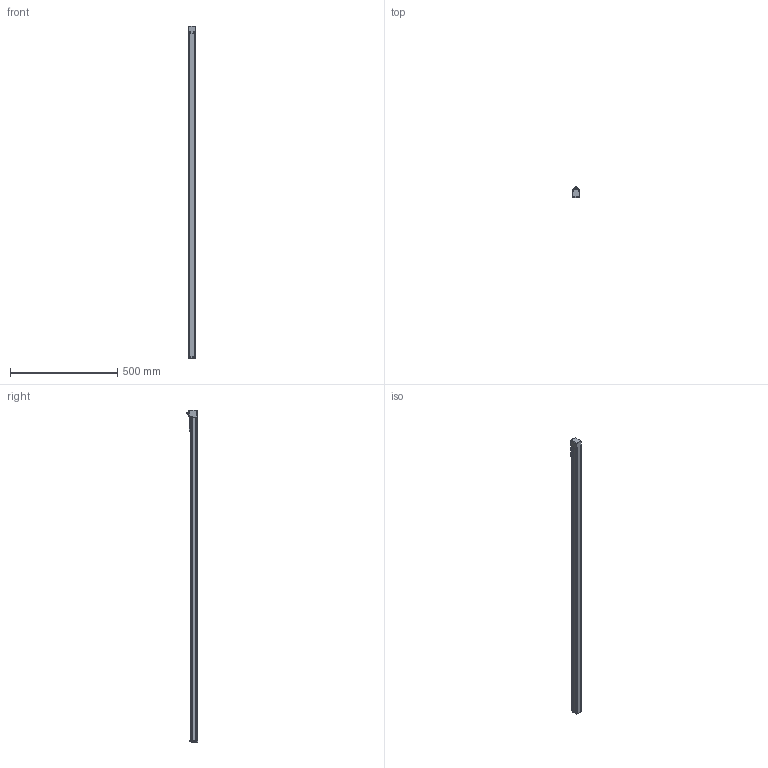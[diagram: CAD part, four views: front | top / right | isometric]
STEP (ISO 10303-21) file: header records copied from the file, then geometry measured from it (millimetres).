
FILE_DESCRIPTION(/* description */ ('STEP AP214'),/* implementation_level */ '2;1');
FILE_NAME(/* name */ 'MGTB 32 1400(0)',/* time_stamp */ '2023-04-17T13:35:32+02:00',/* author */ ('License CC BY-ND 4.0'),/* organization */ ('CADENAS'),/* preprocessor_version */ 'ST-DEVELOPER v19.3',/* originating_system */ 'PARTsolutions',/* authorisation */ ' ');
FILE_SCHEMA (('AUTOMOTIVE_DESIGN {1 0 10303 214 3 1 1}'));
Length unit declared in the file: millimetre
Products named in the file (6): MGTB 32 1400(0); MGTB 32 1400_protection_strip; MGTB 32_carriage; MGTB 32_end_block; MGTB 32 1400_profile; MGTB 32_drive_block
Assembly tree (5 placements, depth 2):
  MGTB 32 1400(0)
    MGTB 32 1400_protection_strip
    MGTB 32_carriage
    MGTB 32_end_block
    MGTB 32 1400_profile
    MGTB 32_drive_block
Bounding box: 32 x 51.75 x 1544.75 mm (x, y, z)
Volume: 1448237.1 mm3; surface area: 342459.3 mm2
Topology: 5 solids, 5 shells, 664 faces, 1755 edges, 1129 vertices
Faces by surface type: plane 316, cylinder 171, cone 90, bspline 60, torus 25, sphere 2
Full cylindrical faces by diameter (mm): 1.155 x1, 1.567 x4, 1.755 x4, 1.8 x2, 2 x2, 2.3 x4, 2.459 x8, 2.46 x4, 2.5 x11, 3 x1, 3.8 x4, 4.5 x4, 5 x3, 7 x1, 7.5 x1, 9.6 x1, 19.5 x1, 25 x2
Entity records: 24513 total; most frequent: CARTESIAN_POINT 4239, DIRECTION 3359, ORIENTED_EDGE 3170, EDGE_CURVE 1585, AXIS2_PLACEMENT_3D 1204, VERTEX_POINT 1116, LINE 951, VECTOR 951
